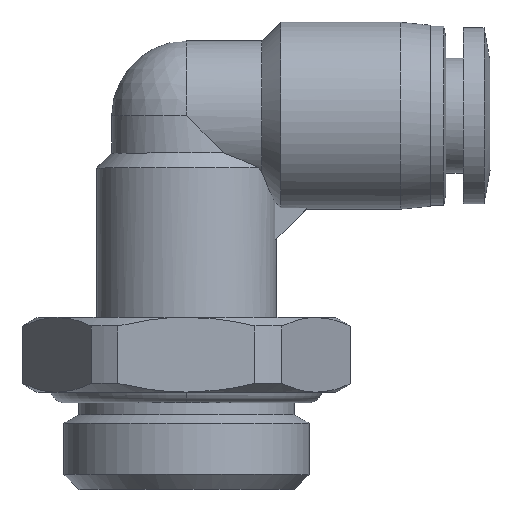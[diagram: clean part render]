
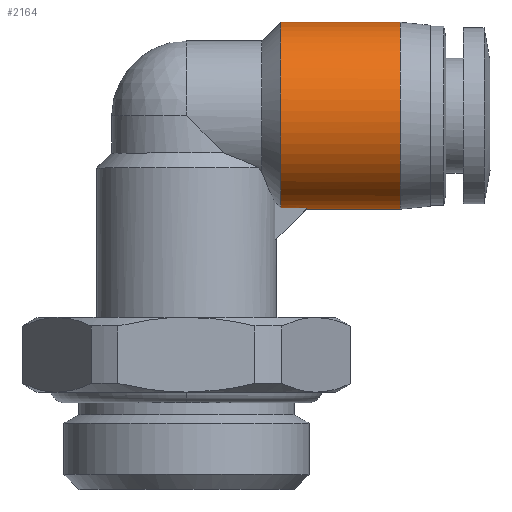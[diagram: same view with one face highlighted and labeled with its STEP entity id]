
A CAD part, top view. The second image highlights one B-rep face of the part: STEP entity #2164.
In plain terms, the highlighted cylindrical face has radius 6.25 mm (diameter 12.5 mm), a partial arc.
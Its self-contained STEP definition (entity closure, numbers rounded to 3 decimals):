
#9 = VERTEX_POINT ( 'NONE', #4033 ) ;
#191 = CARTESIAN_POINT ( 'NONE',  ( 7.487, 7.331, 1. ) ) ;
#199 = B_SPLINE_CURVE_WITH_KNOTS ( 'NONE', 3,
 ( #254, #3925, #274, #4251 ),
 .UNSPECIFIED., .F., .F.,
 ( 4, 4 ),
 ( 0.5, 1. ),
 .UNSPECIFIED. ) ;
#254 = CARTESIAN_POINT ( 'NONE',  ( 8., 7.25, 0. ) ) ;
#274 = CARTESIAN_POINT ( 'NONE',  ( 8.026, 7.276, 0.667 ) ) ;
#292 = CARTESIAN_POINT ( 'NONE',  ( 14.3, 12.682, 6.25 ) ) ;
#413 = B_SPLINE_CURVE_WITH_KNOTS ( 'NONE', 3,
 ( #3427, #2128, #4132, #1976, #3097, #1411, #3673, #4110, #3321, #292, #1305, #1775, #2765, #1084, #1108, #422, #3074, #1059 ),
 .UNSPECIFIED., .F., .F.,
 ( 4, 2, 2, 2, 2, 2, 2, 2, 4 ),
 ( 0., 0.063, 0.125, 0.188, 0.25, 0.313, 0.375, 0.438, 0.5 ),
 .UNSPECIFIED. ) ;
#422 = CARTESIAN_POINT ( 'NONE',  ( 14.3, 7.413, 1.636 ) ) ;
#583 = EDGE_CURVE ( 'NONE', #1420, #3268, #1239, .T. ) ;
#649 = ORIENTED_EDGE ( 'NONE', *, *, #3773, .F. ) ;
#674 = CARTESIAN_POINT ( 'NONE',  ( 10.3, 7.25, 0. ) ) ;
#706 = CARTESIAN_POINT ( 'NONE',  ( 6.3, 13.228, 6.292 ) ) ;
#752 = CARTESIAN_POINT ( 'NONE',  ( 6.3, 15.537, 5.959 ) ) ;
#824 = EDGE_LOOP ( 'NONE', ( #649, #1511, #872, #894, #1809, #1640 ) ) ;
#872 = ORIENTED_EDGE ( 'NONE', *, *, #4092, .F. ) ;
#894 = ORIENTED_EDGE ( 'NONE', *, *, #1179, .F. ) ;
#1008 = CARTESIAN_POINT ( 'NONE',  ( 10.3, 19.75, 0. ) ) ;
#1036 = CARTESIAN_POINT ( 'NONE',  ( 6.3, 10.255, 5.398 ) ) ;
#1059 = CARTESIAN_POINT ( 'NONE',  ( 14.3, 7.25, 0. ) ) ;
#1083 = CARTESIAN_POINT ( 'NONE',  ( 6.3, 7.723, 2.509 ) ) ;
#1084 = CARTESIAN_POINT ( 'NONE',  ( 14.3, 8.502, 3.841 ) ) ;
#1108 = CARTESIAN_POINT ( 'NONE',  ( 14.3, 8.039, 3.148 ) ) ;
#1179 = EDGE_CURVE ( 'NONE', #9, #1757, #4040, .T. ) ;
#1239 = B_SPLINE_CURVE_WITH_KNOTS ( 'NONE', 3,
 ( #1879, #191, #2887, #3349 ),
 .UNSPECIFIED., .F., .F.,
 ( 4, 4 ),
 ( 0., 1. ),
 .UNSPECIFIED. ) ;
#1305 = CARTESIAN_POINT ( 'NONE',  ( 14.3, 11.864, 6.087 ) ) ;
#1357 = VERTEX_POINT ( 'NONE', #1559 ) ;
#1390 = CARTESIAN_POINT ( 'NONE',  ( 6.3, 7.331, 1. ) ) ;
#1400 = CARTESIAN_POINT ( 'NONE',  ( 14.3, 19.75, 0. ) ) ;
#1407 = DIRECTION ( 'NONE',  ( 0., 1., 0. ) ) ;
#1411 = CARTESIAN_POINT ( 'NONE',  ( 14.3, 17.341, 4.998 ) ) ;
#1420 = VERTEX_POINT ( 'NONE', #4226 ) ;
#1511 = ORIENTED_EDGE ( 'NONE', *, *, #2312, .T. ) ;
#1559 = CARTESIAN_POINT ( 'NONE',  ( 8., 7.25, 0. ) ) ;
#1640 = ORIENTED_EDGE ( 'NONE', *, *, #583, .F. ) ;
#1685 = CARTESIAN_POINT ( 'NONE',  ( 6.3, 17.567, 4.809 ) ) ;
#1706 = CARTESIAN_POINT ( 'NONE',  ( 6.3, 19.75, 0.776 ) ) ;
#1749 = CARTESIAN_POINT ( 'NONE',  ( 6.3, 19.75, 0. ) ) ;
#1757 = VERTEX_POINT ( 'NONE', #1400 ) ;
#1774 = CARTESIAN_POINT ( 'NONE',  ( 6.3, 19.604, 1.552 ) ) ;
#1775 = CARTESIAN_POINT ( 'NONE',  ( 14.3, 10.352, 5.461 ) ) ;
#1809 = ORIENTED_EDGE ( 'NONE', *, *, #1859, .T. ) ;
#1859 = EDGE_CURVE ( 'NONE', #9, #3268, #2274, .T. ) ;
#1879 = CARTESIAN_POINT ( 'NONE',  ( 8.081, 7.331, 1. ) ) ;
#1976 = CARTESIAN_POINT ( 'NONE',  ( 14.3, 18.961, 3.148 ) ) ;
#2082 = CARTESIAN_POINT ( 'NONE',  ( 10.3, 13.5, 0. ) ) ;
#2128 = CARTESIAN_POINT ( 'NONE',  ( 14.3, 19.75, 0.818 ) ) ;
#2164 = ADVANCED_FACE ( 'NONE', ( #3424 ), #3379, .T. ) ;
#2274 = B_SPLINE_CURVE_WITH_KNOTS ( 'NONE', 3,
 ( #1749, #1706, #1774, #3711, #3780, #1685, #2348, #752, #2721, #706, #4049, #2742, #1036, #2700, #3120, #1083, #3426, #1390 ),
 .UNSPECIFIED., .F., .F.,
 ( 4, 2, 2, 2, 2, 2, 2, 2, 4 ),
 ( 0.5, 0.563, 0.625, 0.688, 0.75, 0.813, 0.875, 0.938, 1. ),
 .UNSPECIFIED. ) ;
#2312 = EDGE_CURVE ( 'NONE', #1357, #4118, #3655, .T. ) ;
#2348 = CARTESIAN_POINT ( 'NONE',  ( 6.3, 16.933, 5.28 ) ) ;
#2700 = CARTESIAN_POINT ( 'NONE',  ( 6.3, 9.033, 4.44 ) ) ;
#2721 = CARTESIAN_POINT ( 'NONE',  ( 6.3, 14.775, 6.168 ) ) ;
#2742 = CARTESIAN_POINT ( 'NONE',  ( 6.3, 10.956, 5.761 ) ) ;
#2765 = CARTESIAN_POINT ( 'NONE',  ( 14.3, 9.659, 4.998 ) ) ;
#2887 = CARTESIAN_POINT ( 'NONE',  ( 6.894, 7.331, 1. ) ) ;
#3074 = CARTESIAN_POINT ( 'NONE',  ( 14.3, 7.25, 0.818 ) ) ;
#3075 = VECTOR ( 'NONE', #3373, 1000. ) ;
#3097 = CARTESIAN_POINT ( 'NONE',  ( 14.3, 18.498, 3.841 ) ) ;
#3120 = CARTESIAN_POINT ( 'NONE',  ( 6.3, 8.513, 3.846 ) ) ;
#3217 = AXIS2_PLACEMENT_3D ( 'NONE', #2082, #3751, #1407 ) ;
#3268 = VERTEX_POINT ( 'NONE', #3733 ) ;
#3318 = VECTOR ( 'NONE', #3420, 1000. ) ;
#3321 = CARTESIAN_POINT ( 'NONE',  ( 14.3, 14.318, 6.25 ) ) ;
#3349 = CARTESIAN_POINT ( 'NONE',  ( 6.3, 7.331, 1. ) ) ;
#3373 = DIRECTION ( 'NONE',  ( 1., 0., 0. ) ) ;
#3379 = CYLINDRICAL_SURFACE ( 'NONE', #3217, 6.25 ) ;
#3420 = DIRECTION ( 'NONE',  ( 1., 0., 0. ) ) ;
#3424 = FACE_OUTER_BOUND ( 'NONE', #824, .T. ) ;
#3426 = CARTESIAN_POINT ( 'NONE',  ( 6.3, 7.455, 1.766 ) ) ;
#3427 = CARTESIAN_POINT ( 'NONE',  ( 14.3, 19.75, 0. ) ) ;
#3655 = LINE ( 'NONE', #674, #3075 ) ;
#3673 = CARTESIAN_POINT ( 'NONE',  ( 14.3, 16.648, 5.461 ) ) ;
#3711 = CARTESIAN_POINT ( 'NONE',  ( 6.3, 19.039, 2.998 ) ) ;
#3733 = CARTESIAN_POINT ( 'NONE',  ( 6.3, 7.331, 1. ) ) ;
#3751 = DIRECTION ( 'NONE',  ( 1., 0., 0. ) ) ;
#3773 = EDGE_CURVE ( 'NONE', #1357, #1420, #199, .T. ) ;
#3780 = CARTESIAN_POINT ( 'NONE',  ( 6.3, 18.62, 3.668 ) ) ;
#3925 = CARTESIAN_POINT ( 'NONE',  ( 7.999, 7.249, 0.333 ) ) ;
#3983 = CARTESIAN_POINT ( 'NONE',  ( 14.3, 7.25, 0. ) ) ;
#4033 = CARTESIAN_POINT ( 'NONE',  ( 6.3, 19.75, 0. ) ) ;
#4040 = LINE ( 'NONE', #1008, #3318 ) ;
#4049 = CARTESIAN_POINT ( 'NONE',  ( 6.3, 12.443, 6.209 ) ) ;
#4092 = EDGE_CURVE ( 'NONE', #1757, #4118, #413, .T. ) ;
#4110 = CARTESIAN_POINT ( 'NONE',  ( 14.3, 15.136, 6.087 ) ) ;
#4118 = VERTEX_POINT ( 'NONE', #3983 ) ;
#4132 = CARTESIAN_POINT ( 'NONE',  ( 14.3, 19.587, 1.636 ) ) ;
#4226 = CARTESIAN_POINT ( 'NONE',  ( 8.081, 7.331, 1. ) ) ;
#4251 = CARTESIAN_POINT ( 'NONE',  ( 8.081, 7.331, 1. ) ) ;
